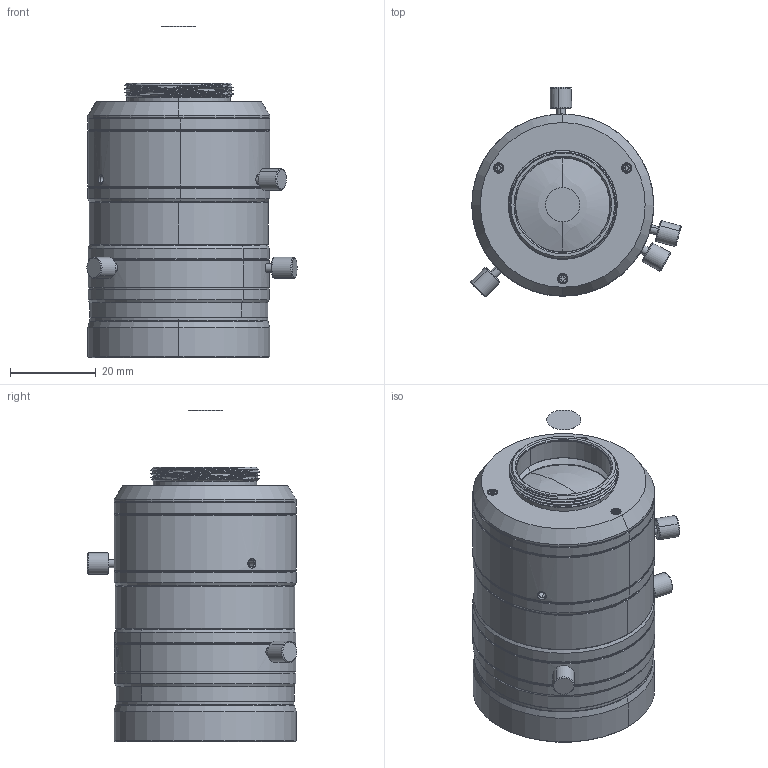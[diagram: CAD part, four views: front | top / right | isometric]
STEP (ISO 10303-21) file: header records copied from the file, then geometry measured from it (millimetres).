
FILE_DESCRIPTION((''),'2;1');
FILE_NAME('MVL-KF1624M-25MP_ASM','2020-12-31T10:58:59',('dihaoping'),(''),'CREO PARAMETRIC BY PTC INC, 2017260','CREO PARAMETRIC BY PTC INC, 2017260','');
FILE_SCHEMA(('CONFIG_CONTROL_DESIGN'));
Length unit declared in the file: millimetre
Products named in the file (25): FK20S02A-101_50; FK20S02A-103_66; FK0S02-XM_6; FK20S02-G1_12; FK20S02-301_23; FK20S02A-102_55; FK20S02-121_ASM_5; FK20S02-G13_10; FK20S02-303_18; FK20S02-122_ASM_10_ASM; PH7102A-502_6_1_2; PH7100A-502_7_1_2_3; FK20S02-02_ASM_6_ASM; FK20S02A-107_22; FK20S02A-104_53; FK20S02A-105_47; FK20S02-106_14; FK20S02-108_12; PH7100A-509_7_1_2; PH7100A-504_4_1_2_3; PHX-16-502_6_1_2_3; PV16-505_4_1_2_3; FK20S02-109_5; FK20S02A-ZP_ASM_47_ASM; MVL-KF1624M-25MP_ASM
Assembly tree (35 placements, depth 5):
  MVL-KF1624M-25MP_ASM
    FK20S02A-ZP_ASM_47_ASM
      FK20S02A-101_50
      FK20S02A-103_66
      FK0S02-XM_6
      FK20S02-G1_12
      FK20S02-301_23
      FK20S02A-102_55
      FK20S02-02_ASM_6_ASM
        FK20S02-121_ASM_5
        FK20S02-122_ASM_10_ASM
          FK20S02-G13_10
          FK20S02-303_18
        PH7102A-502_6_1_2  x2
        PH7100A-502_7_1_2_3  x3
      FK20S02A-107_22
      FK20S02A-104_53
      FK20S02A-105_47
      FK20S02-106_14
      FK20S02-108_12
      PH7100A-509_7_1_2  x4
      PH7100A-504_4_1_2_3
      PHX-16-502_6_1_2_3  x3
      PV16-505_4_1_2_3  x4
      FK20S02-109_5
Bounding box: 49.08 x 48.94 x 77.31 mm (x, y, z)
Volume: 37584.5 mm3; surface area: 43640.6 mm2
Topology: 31 solids, 31 shells, 972 faces, 2367 edges, 1480 vertices
Faces by surface type: cylinder 317, cone 261, plane 238, bspline 124, torus 18, sphere 14
Entity records: 30973 total; most frequent: CARTESIAN_POINT 12978, DIRECTION 3667, ORIENTED_EDGE 3652, EDGE_CURVE 1826, AXIS2_PLACEMENT_3D 1480, VERTEX_POINT 1162, EDGE_LOOP 852, FACE_OUTER_BOUND 746
